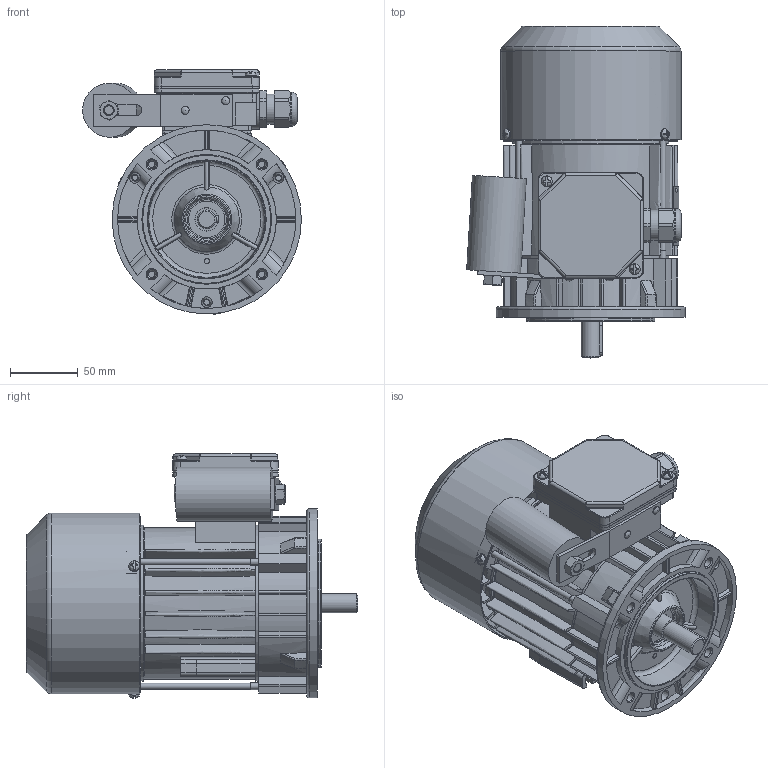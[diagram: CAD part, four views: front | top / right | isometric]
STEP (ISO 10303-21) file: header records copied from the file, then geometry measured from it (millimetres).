
FILE_DESCRIPTION( ( 'Unknown' ), '1' );
FILE_NAME( 'G:/Poczta Tk-1/STP/w.m.71/SEh71/SEKh71-.B1.stp', 'Unknown', ( 'K. Szlosek' ), ( 'BESEL S.A.' ), 'PSStep 17.0.49', 'Unknown', ' ' );
FILE_SCHEMA( ( 'AUTOMOTIVE_DESIGN { 1 0 10303 214 1 1 1 1 }' ) );
Length unit declared in the file: millimetre
Products named in the file (33): Assem1; K4-2820 Uszczelka nr 2 Sh71,80; Wkręt samogwintujący M4x16; K3-6469 Tarcza łożyskowa P S(E,M)h71-B,C; Wpust A5x5x25; Wkręt samogwintujący M4x8; K2-1131 Podstawa skrzynki zaciskowej jednofazowa; Nit 4x12 po skróceniu; K4-2999 Uchwyt kondensatora; nakrętka M8; K1-1194 Kadłub z zamkami Sh71-.B; Kondensator zb 11-16uF Comar; K3-3984 Przewietrznik Sh71; K4-2320 Uszczelka nr 1 Sh71,80; K3-2975 Osłona przewietrznika Sh71-.B,C; K2-0860 Pokrywka skrzynki zaciskowej; K3-4502 wał standard Sh71-B; Nitokołek A 2x6; Łożysko 6203; Śruba ściągająca E_M5x110; Tabliczka znamionowa 32x44; Dławnica M20x1,5; K4-0898 Tulejka uszczelniająca; K1-1246 Tarcza kołnierzowa B14_1 w.m. 71
Assembly tree (49 placements, depth 2):
  Assem1
    K4-2820 Uszczelka nr 2 Sh71,80
    Wkręt samogwintujący M4x16  x2
    K3-6469 Tarcza łożyskowa P S(E,M)h71-B,C
    Wpust A5x5x25
    Wkręt samogwintujący M4x8  x3
    K2-1131 Podstawa skrzynki zaciskowej jednofazowa
    Nit 4x12 po skróceniu  x2
    K4-2999 Uchwyt kondensatora
    nakrętka M8
    K1-1194 Kadłub z zamkami Sh71-.B
    Kondensator zb 11-16uF Comar
    K3-3984 Przewietrznik Sh71
    K4-2320 Uszczelka nr 1 Sh71,80
    K3-2975 Osłona przewietrznika Sh71-.B,C
    K2-0860 Pokrywka skrzynki zaciskowej
    K3-4502 wał standard Sh71-B
    Nitokołek A 2x6  x2
    Łożysko 6203  x2
    Łożysko 6203  x2
    Łożysko 6203  x2
    Łożysko 6203  x2
    Łożysko 6203  x2
    Łożysko 6203  x2
    Łożysko 6203  x2
    Łożysko 6203  x2
    Łożysko 6203  x2
    Łożysko 6203  x2
    Śruba ściągająca E_M5x110  x3
    Tabliczka znamionowa 32x44
    Dławnica M20x1,5
    K4-0898 Tulejka uszczelniająca
    K1-1246 Tarcza kołnierzowa B14_1 w.m. 71
Bounding box: 161.81 x 245.5 x 180.57 mm (x, y, z)
Volume: 746295.1 mm3; surface area: 458004.3 mm2
Topology: 49 solids, 65 shells, 2534 faces, 6873 edges, 4417 vertices
Faces by surface type: plane 1020, cylinder 737, bspline 345, torus 205, cone 177, sphere 50
Full cylindrical faces by diameter (mm): 2 x2, 2.4 x2, 3 x1, 3.7 x7, 3.8 x4, 4 x8, 4.134 x3, 4.3 x2, 4.5 x3, 4.6 x3, 4.8 x4, 5 x7, 5.5 x3, 6 x2, 6.5 x1, 6.647 x1, 6.8 x4, 7 x1, 8 x10, 10 x2, 14 x1, 15.9 x1, 16.1 x1, 16.5 x1, 17 x4, 17.4 x2, 18.376 x1, 18.38 x1, 20 x1, 22 x2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
Entity records: 146154 total; most frequent: CARTESIAN_POINT 70509, ORIENTED_EDGE 12188, DIRECTION 10931, EDGE_CURVE 6094, AXIS2_PLACEMENT_3D 4213, VERTEX_POINT 4077, EDGE_LOOP 2809, LINE 2505
